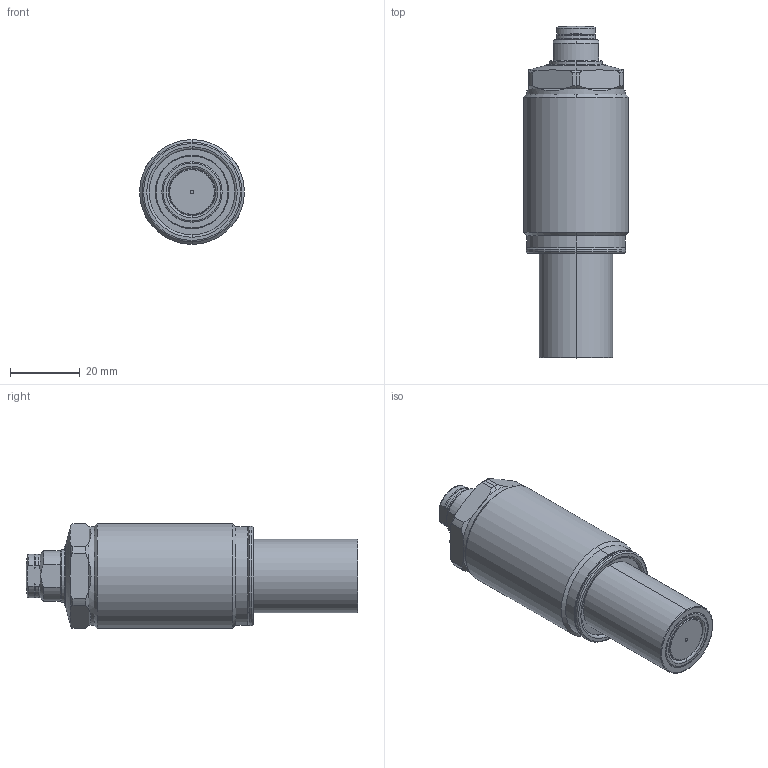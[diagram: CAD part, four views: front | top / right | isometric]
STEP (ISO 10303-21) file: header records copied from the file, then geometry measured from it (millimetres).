
FILE_DESCRIPTION(/* description */ (''),/* implementation_level */ '2;1');
FILE_NAME(/* name */ 'GSC03-Q.stp',/* time_stamp */ '2025-01-10T08:56:41+08:00',/* author */ (''),/* organization */ (''),/* preprocessor_version */ 'ST-DEVELOPER v16.7',/* originating_system */ 'SIEMENS PLM Software NX 12.0',/* authorisation */ '');
FILE_SCHEMA (('AUTOMOTIVE_DESIGN { 1 0 10303 214 3 1 1 1 }'));
Length unit declared in the file: millimetre
Products named in the file (8): TNC0403_ContactBolt_M10123; AS010124; GSC03-Q-05; GSC03-Q-04; GSC03-Q-03; GSC03-Q-02; GSC03-Q-01; GSC03-Q_stp
Assembly tree (7 placements, depth 3):
  GSC03-Q_stp
    GSC03-Q-01
      AS010124
      TNC0403_ContactBolt_M10123
    GSC03-Q-02
    GSC03-Q-03
    GSC03-Q-04
    GSC03-Q-05
Bounding box: 30 x 95 x 30 mm (x, y, z)
Volume: 48461.7 mm3; surface area: 12487.1 mm2
Topology: 6 solids, 6 shells, 176 faces, 391 edges, 235 vertices
Faces by surface type: cylinder 54, torus 49, plane 39, cone 32, sphere 2
Full cylindrical faces by diameter (mm): 28.2 x1, 30 x1
Entity records: 5367 total; most frequent: CARTESIAN_POINT 1174, DIRECTION 943, ORIENTED_EDGE 782, AXIS2_PLACEMENT_3D 420, EDGE_CURVE 391, VERTEX_POINT 237, CIRCLE 230, EDGE_LOOP 194
